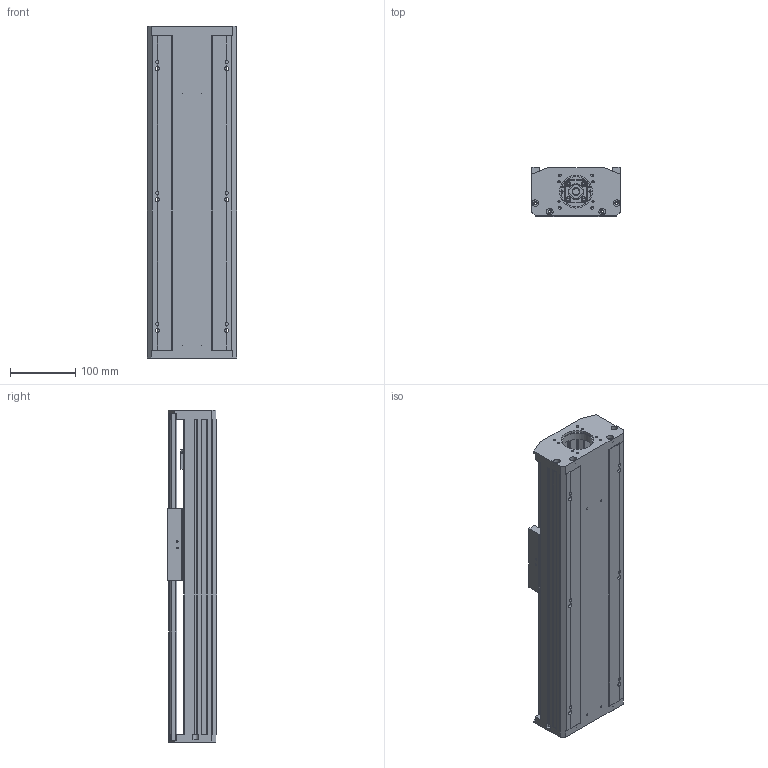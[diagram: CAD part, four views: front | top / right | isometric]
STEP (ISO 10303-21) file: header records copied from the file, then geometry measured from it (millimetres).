
FILE_DESCRIPTION(/* description */ (''),/* implementation_level */ '2;1');
FILE_NAME(/* name */ 'TKA136-F0-250_asm1.stp',/* time_stamp */ '2016-05-07T08:17:56+08:00',/* author */ (''),/* organization */ (''),/* preprocessor_version */ 'ST-DEVELOPER v15',/* originating_system */ 'SIEMENS PLM Software NX 8.5',/* authorisation */ '');
FILE_SCHEMA (('AUTOMOTIVE_DESIGN { 1 0 10303 214 3 1 1 1 }'));
Length unit declared in the file: millimetre
Products named in the file (3): 250-02; 250-01; TKA136-F0-250_asm1
Assembly tree (2 placements, depth 2):
  TKA136-F0-250_asm1
    250-01
    250-02
Bounding box: 136 x 75 x 507 mm (x, y, z)
Volume: 1828383.2 mm3; surface area: 648156.2 mm2
Topology: 2 solids, 12 shells, 781 faces, 2141 edges, 1398 vertices
Faces by surface type: plane 379, cylinder 348, cone 54
Full cylindrical faces by diameter (mm): 2.5 x4, 3 x2, 3.3 x12, 4 x4, 4.2 x10, 4.5 x20, 5 x10, 5.5 x26, 6.6 x10, 8 x20, 10 x9, 10.5 x6, 11 x4, 11.6 x1, 12 x9, 15 x3, 16 x5, 17 x1, 24 x5, 26 x1, 28 x1, 46 x1, 50 x1
Entity records: 25500 total; most frequent: CARTESIAN_POINT 6708, DIRECTION 3917, ORIENTED_EDGE 3596, EDGE_CURVE 1798, AXIS2_PLACEMENT_3D 1487, VERTEX_POINT 1300, EDGE_LOOP 1136, LINE 943
